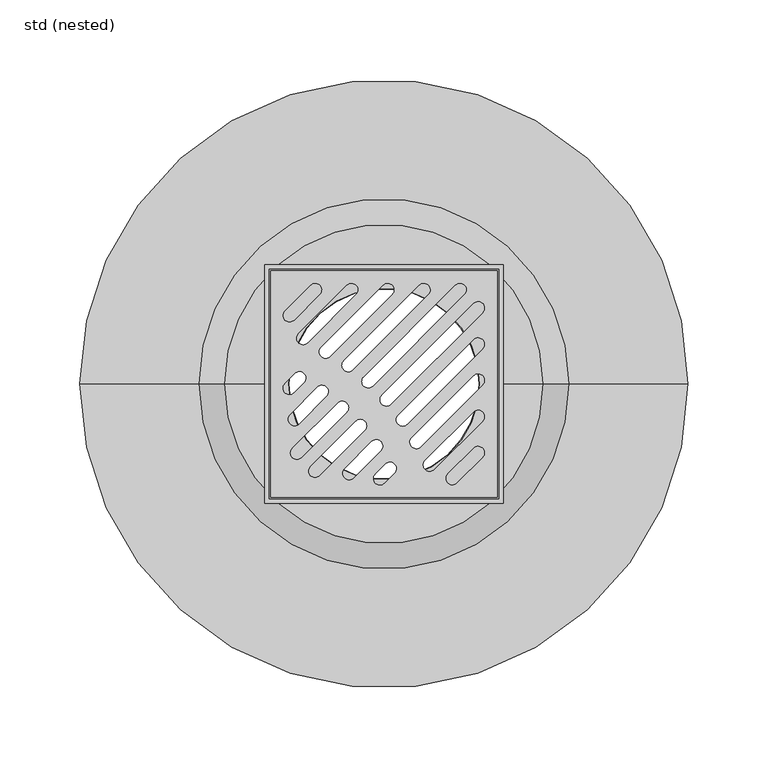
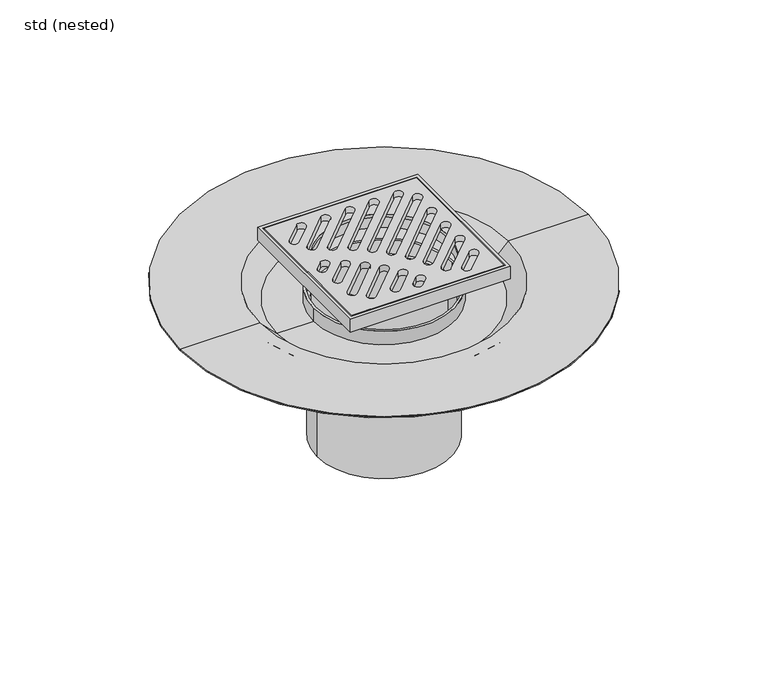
"""IFC4 building model written with IfcOpenShell, lengths in millimetres: sanitary terminal geometry, ZZZ_do_not_use_PF_GEN_UN_composite sealing top section Passavant_ACO : std (nested)."""

from ifc_helpers import new_model, si_unit, point, frame, frame_2d, origin, origin_2d, place, context, project, spatial, polyline, circle_curve, trimmed, segment, composite_curve, outline, extrude, source, transform, mapped, element, save
from ifc_brep_helpers import plane_surface, cylinder_surface, revolved_surface, advanced_brep


def std_nested_1c8f0180(model_context):
    return source(origin(), model_context, "Body", "SolidModel", [
        advanced_brep(
        [(71.6, 71.6, 35.5), (71.6, 71.6, 25.9), (71.6, -71.6, 25.9), (71.6, -71.6, 35.5), (74.6, 74.6, 22.9), (74.6, 74.6, 35.5), (74.6, -74.6, 35.5), (74.6, -74.6, 22.9), (-71.6, -71.6, 25.9), (-71.6, -71.6, 35.5), (-74.6, -74.6, 35.5), (-74.6, -74.6, 22.9), (-71.6, 71.6, 25.9), (-71.6, 71.6, 35.5), (-74.6, 74.6, 35.5), (-74.6, 74.6, 22.9), (59.6, 0.0, 25.9), (-59.6, 0.0, 25.9), (-62.6, 0.0, 22.9), (62.6, 0.0, 22.9), (-62.6, 0.0, 13.0), (62.6, 0.0, 13.0), (-59.6, 0.0, 13.0), (59.6, 0.0, 13.0), (59.6, 0.0, 22.9), (-59.6, 0.0, 22.9)],
        [
            (0, 1),
            (1, 2),
            (2, 3),
            (3, 0),
            (4, 5),
            (5, 6),
            (6, 7),
            (7, 4),
            (2, 8),
            (8, 9),
            (9, 3),
            (6, 10),
            (10, 11),
            (11, 7),
            (8, 12),
            (12, 13),
            (13, 9),
            (10, 14),
            (14, 15),
            (15, 11),
            (1, 12),
            (16, 17, circle_curve(frame((0.0, 0.0, 25.9), z_axis=(0.0, 0.0, -1.0), x_axis=(1.0, 0.0, 0.0)), 59.6)),
            (17, 16, circle_curve(frame((0.0, 0.0, 25.9), z_axis=(0.0, 0.0, -1.0), x_axis=(1.0, 0.0, 0.0)), 59.6)),
            (0, 13),
            (5, 14),
            (4, 15),
            (18, 19, circle_curve(frame((0.0, 0.0, 22.9), z_axis=(0.0, 0.0, 1.0), x_axis=(1.0, 0.0, 0.0)), 62.6)),
            (19, 18, circle_curve(frame((0.0, 0.0, 22.9), z_axis=(0.0, 0.0, 1.0), x_axis=(1.0, 0.0, 0.0)), 62.6)),
            (20, 21, circle_curve(frame((0.0, 0.0, 13.0), z_axis=(0.0, 0.0, -1.0), x_axis=(1.0, 0.0, 0.0)), 62.6)),
            (21, 20, circle_curve(frame((0.0, 0.0, 13.0), z_axis=(0.0, 0.0, -1.0), x_axis=(1.0, 0.0, 0.0)), 62.6)),
            (22, 23, circle_curve(frame((0.0, 0.0, 13.0), z_axis=(0.0, 0.0, 1.0), x_axis=(1.0, 0.0, 0.0)), 59.6)),
            (23, 22, circle_curve(frame((0.0, 0.0, 13.0), z_axis=(0.0, 0.0, 1.0), x_axis=(1.0, 0.0, 0.0)), 59.6)),
            (21, 19),
            (18, 20),
            (23, 24),
            (24, 25, circle_curve(frame((0.0, 0.0, 22.9), z_axis=(0.0, 0.0, 1.0), x_axis=(1.0, 0.0, 0.0)), 59.6)),
            (25, 22),
            (25, 24, circle_curve(frame((0.0, 0.0, 22.9), z_axis=(0.0, 0.0, 1.0), x_axis=(1.0, 0.0, 0.0)), 59.6)),
            (16, 24),
            (25, 17),
        ],
        [
            plane_surface(frame((71.6, 71.6, 25.9), z_axis=(-1.0, 0.0, 0.0), x_axis=(0.0, -1.0, 0.0))),
            plane_surface(frame((74.6, 74.6, 35.5), z_axis=(1.0, 0.0, 0.0), x_axis=(0.0, -1.0, 0.0))),
            plane_surface(frame((71.6, -71.6, 25.9), z_axis=(0.0, 1.0, 0.0), x_axis=(-1.0, 0.0, 0.0))),
            plane_surface(frame((74.6, -74.6, 35.5), z_axis=(0.0, -1.0, 0.0), x_axis=(-1.0, 0.0, 0.0))),
            plane_surface(frame((-71.6, -71.6, 25.9), z_axis=(1.0, 0.0, 0.0), x_axis=(0.0, 1.0, 0.0))),
            plane_surface(frame((-74.6, -74.6, 35.5), z_axis=(-1.0, 0.0, 0.0), x_axis=(0.0, 1.0, 0.0))),
            plane_surface(frame((0.0, 0.0, 25.9), z_axis=(0.0, 0.0, 1.0), x_axis=(1.0, 0.0, 0.0))),
            plane_surface(frame((-71.6, 71.6, 25.9), z_axis=(0.0, -1.0, 0.0), x_axis=(1.0, 0.0, 0.0))),
            plane_surface(frame((-71.6, 71.6, 35.5), z_axis=(0.0, 0.0, 1.0), x_axis=(1.0, 0.0, 0.0))),
            plane_surface(frame((-74.6, 74.6, 35.5), z_axis=(0.0, 1.0, 0.0), x_axis=(1.0, 0.0, 0.0))),
            plane_surface(frame((-74.6, 74.6, 22.9), z_axis=(0.0, 0.0, -1.0), x_axis=(1.0, 0.0, 0.0))),
            plane_surface(frame((62.6, 0.0, 13.0), z_axis=(0.0, 0.0, -1.0), x_axis=(0.0, -1.0, 0.0))),
            cylinder_surface(frame((0.0, 0.0, 13.0), z_axis=(0.0, 0.0, 1.0), x_axis=(1.0, 0.0, 0.0)), 62.6),
            revolved_surface(polyline([(59.6, 0.0, 13.0), (59.6, 0.0, 22.9)]), (0.0, 0.0, 35.5), (0.0, 0.0, -1.0)),
            revolved_surface(polyline([(59.6, 0.0, 25.9), (59.6, 0.0, 22.9)]), (0.0, 0.0, 22.9), (0.0, 0.0, 1.0)),
        ],
        [
            (0, [[1, 2, 3, 4]]),
            (1, [[5, 6, 7, 8]]),
            (2, [[-3, 9, 10, 11]]),
            (3, [[-7, 12, 13, 14]]),
            (4, [[-10, 15, 16, 17]]),
            (5, [[-13, 18, 19, 20]]),
            (6, [[-2, 21, -15, -9], [22, 23]]),
            (7, [[-1, 24, -16, -21]]),
            (8, [[-6, 25, -18, -12], [-4, -11, -17, -24]]),
            (9, [[-5, 26, -19, -25]]),
            (10, [[-8, -14, -20, -26], [27, 28]]),
            (11, [[29, 30], [31, 32]]),
            (12, [[-30, 33, -27, 34]]),
            (12, [[-29, -34, -28, -33]]),
            (13, [[-32, 35, 36, 37]]),
            (13, [[-31, -37, 38, -35]]),
            (14, [[39, -38, 40, -22]]),
            (14, [[-39, -23, -40, -36]]),
        ],
    ),
        extrude(outline(polyline([(70.75, 70.75), (70.75, -70.75), (-70.75, -70.75), (-70.75, 70.75), (70.75, 70.75)]), holes=[composite_curve([segment(polyline([(44.6581024, 61.6286651), (-12.6246339, 4.3461669)]), True, "CONTINUOUS"), segment(trimmed(circle_curve(frame_2d((-9.7961473, 1.5176802)), 4.0000841), [point((-12.6246339, 4.3461669))], [point((-6.9675416, -1.3106874))], True, "CARTESIAN"), True, "CONTINUOUS"), segment(polyline([(-6.9675416, -1.3106874), (50.3149566, 55.9718109)]), True, "CONTINUOUS"), segment(trimmed(circle_curve(frame_2d((47.4864105, 58.800119)), 4.0), [point((50.3149566, 55.9718109))], [point((44.6581024, 61.6286651))], True, "CARTESIAN"), True, "CONTINUOUS")], self_intersect=False), composite_curve([segment(polyline([(55.9714539, 50.3145996), (-1.3109254, -6.9676606)]), True, "CONTINUOUS"), segment(trimmed(circle_curve(frame_2d((1.5175612, -9.7960283)), 4.0), [point((-1.3109254, -6.9676606))], [point((4.3459884, -12.6244554))], True, "CARTESIAN"), True, "CONTINUOUS"), segment(polyline([(4.3459884, -12.6244554), (61.6283081, 44.6577454)]), True, "CONTINUOUS"), segment(trimmed(circle_curve(frame_2d((58.799881, 47.4861725)), 4.0), [point((61.6283081, 44.6577454))], [point((55.9714539, 50.3145996))], True, "CARTESIAN"), True, "CONTINUOUS")], self_intersect=False), composite_curve([segment(polyline([(55.9715729, 5.0601226), (17.3213978, -33.590112)]), True, "CONTINUOUS"), segment(trimmed(circle_curve(frame_2d((20.1498249, -36.4185391)), 4.0), [point((17.3213978, -33.590112))], [point((22.978252, -39.2469662))], True, "CARTESIAN"), True, "CONTINUOUS"), segment(polyline([(22.978252, -39.2469662), (61.6284271, -0.5967316)]), True, "CONTINUOUS"), segment(trimmed(circle_curve(frame_2d((58.8, 2.2316955)), 4.0), [point((61.6284271, -0.5967316))], [point((55.9715729, 5.0601226))], True, "CARTESIAN"), True, "CONTINUOUS")], self_intersect=False), composite_curve([segment(polyline([(14.4929707, -25.1048306), (61.6284271, 22.0302094)]), True, "CONTINUOUS"), segment(trimmed(circle_curve(frame_2d((58.8, 24.8586365)), 4.0), [point((61.6284271, 22.0302094))], [point((55.9715729, 27.6870636))], True, "CARTESIAN"), True, "CONTINUOUS"), segment(polyline([(55.9715729, 27.6870636), (8.8361164, -19.4479763)]), True, "CONTINUOUS"), segment(trimmed(circle_curve(frame_2d((11.6645435, -22.2764035)), 4.0), [point((8.8361164, -19.4479763))], [point((14.4929707, -25.1048306))], True, "CARTESIAN"), True, "CONTINUOUS")], self_intersect=False), composite_curve([segment(polyline([(-33.59035, 17.3215763), (5.0598846, 55.9718109)]), True, "CONTINUOUS"), segment(trimmed(circle_curve(frame_2d((2.2314575, 58.800238)), 4.0), [point((5.0598846, 55.9718109))], [point((-0.5969696, 61.6286651))], True, "CARTESIAN"), True, "CONTINUOUS"), segment(polyline([(-0.5969696, 61.6286651), (-39.2472042, 22.9784305)]), True, "CONTINUOUS"), segment(trimmed(circle_curve(frame_2d((-36.4187771, 20.1500034)), 4.0), [point((-39.2472042, 22.9784305))], [point((-33.59035, 17.3215763))], True, "CARTESIAN"), True, "CONTINUOUS")], self_intersect=False), composite_curve([segment(polyline([(22.0304474, 61.6286651), (-25.1050686, 14.4931492)]), True, "CONTINUOUS"), segment(trimmed(circle_curve(frame_2d((-22.2766415, 11.664722)), 4.0), [point((-25.1050686, 14.4931492))], [point((-19.4482143, 8.8362949))], True, "CARTESIAN"), True, "CONTINUOUS"), segment(polyline([(-19.4482143, 8.8362949), (27.6873016, 55.9718109)]), True, "CONTINUOUS"), segment(trimmed(circle_curve(frame_2d((24.8588745, 58.800238)), 4.0), [point((27.6873016, 55.9718109))], [point((22.0304474, 61.6286651))], True, "CARTESIAN"), True, "CONTINUOUS")], self_intersect=False), composite_curve([segment(polyline([(-56.2743355, -5.3624093), (-50.065938, 0.8459883)]), True, "CONTINUOUS"), segment(trimmed(circle_curve(frame_2d((-52.8943651, 3.6744154)), 4.0), [point((-50.065938, 0.8459883))], [point((-55.7227922, 6.5028425))], True, "CARTESIAN"), True, "CONTINUOUS"), segment(polyline([(-55.7227922, 6.5028425), (-61.9311897, 0.294445)]), True, "CONTINUOUS"), segment(trimmed(circle_curve(frame_2d((-59.1027626, -2.5339821)), 4.0), [point((-61.9311897, 0.294445))], [point((-56.2743355, -5.3624093))], True, "CARTESIAN"), True, "CONTINUOUS")], self_intersect=False), composite_curve([segment(polyline([(-56.217767, 39.9489933), (-40.1949494, 55.9718109)]), True, "CONTINUOUS"), segment(trimmed(circle_curve(frame_2d((-43.0233765, 58.800238)), 4.0), [point((-40.1949494, 55.9718109))], [point((-45.8518036, 61.6286651))], True, "CARTESIAN"), True, "CONTINUOUS"), segment(polyline([(-45.8518036, 61.6286651), (-61.8746212, 45.6058475)]), True, "CONTINUOUS"), segment(trimmed(circle_curve(frame_2d((-59.0461941, 42.7774204)), 4.0), [point((-61.8746212, 45.6058475))], [point((-56.217767, 39.9489933))], True, "CARTESIAN"), True, "CONTINUOUS")], self_intersect=False), composite_curve([segment(polyline([(-47.7890541, 25.7502891), (-17.5675324, 55.9718109)]), True, "CONTINUOUS"), segment(trimmed(circle_curve(frame_2d((-20.3959595, 58.800238)), 4.0), [point((-17.5675324, 55.9718109))], [point((-23.2243866, 61.6286651))], True, "CARTESIAN"), True, "CONTINUOUS"), segment(polyline([(-23.2243866, 61.6286651), (-53.4459084, 31.4071434)]), True, "CONTINUOUS"), segment(trimmed(circle_curve(frame_2d((-50.6174812, 28.5787162)), 4.0), [point((-53.4459084, 31.4071434))], [point((-47.7890541, 25.7502891))], True, "CARTESIAN"), True, "CONTINUOUS")], self_intersect=False), composite_curve([segment(polyline([(0.294207, -61.9311897), (6.5026045, -55.7227922)]), True, "CONTINUOUS"), segment(trimmed(circle_curve(frame_2d((3.6741774, -52.8943651)), 4.0), [point((6.5026045, -55.7227922))], [point((0.8457503, -50.065938))], True, "CARTESIAN"), True, "CONTINUOUS"), segment(polyline([(0.8457503, -50.065938), (-5.3626473, -56.2743355)]), True, "CONTINUOUS"), segment(trimmed(circle_curve(frame_2d((-2.5342201, -59.1027626)), 4.0), [point((-5.3626473, -56.2743355))], [point((0.294207, -61.9311897))], True, "CARTESIAN"), True, "CONTINUOUS")], self_intersect=False), composite_curve([segment(polyline([(55.9715729, -40.1947114), (39.9488148, -56.217529)]), True, "CONTINUOUS"), segment(trimmed(circle_curve(frame_2d((42.7772419, -59.0459561)), 4.0), [point((39.9488148, -56.217529))], [point((45.605669, -61.8743832))], True, "CARTESIAN"), True, "CONTINUOUS"), segment(polyline([(45.605669, -61.8743832), (61.6284271, -45.8515656)]), True, "CONTINUOUS"), segment(trimmed(circle_curve(frame_2d((58.8, -43.0231385)), 4.0), [point((61.6284271, -45.8515656))], [point((55.9715729, -40.1947114))], True, "CARTESIAN"), True, "CONTINUOUS")], self_intersect=False), composite_curve([segment(polyline([(55.9715729, -17.5672944), (25.7501106, -47.7888161)]), True, "CONTINUOUS"), segment(trimmed(circle_curve(frame_2d((28.5785377, -50.6172432)), 4.0), [point((25.7501106, -47.7888161))], [point((31.4069649, -53.4456704))], True, "CARTESIAN"), True, "CONTINUOUS"), segment(polyline([(31.4069649, -53.4456704), (61.6284271, -23.2241486)]), True, "CONTINUOUS"), segment(trimmed(circle_curve(frame_2d((58.8, -20.3957215)), 4.0), [point((61.6284271, -23.2241486))], [point((55.9715729, -17.5672944))], True, "CARTESIAN"), True, "CONTINUOUS")], self_intersect=False), composite_curve([segment(polyline([(-7.6536732, -35.9379445), (-24.5961704, -53.0355484)]), True, "CONTINUOUS"), segment(trimmed(circle_curve(frame_2d((-21.7677433, -55.8639756)), 4.0), [point((-24.5961704, -53.0355484))], [point((-18.9393162, -58.6924027))], True, "CARTESIAN"), True, "CONTINUOUS"), segment(polyline([(-18.9393162, -58.6924027), (-1.996819, -41.5947987)]), True, "CONTINUOUS"), segment(trimmed(circle_curve(frame_2d((-4.8252461, -38.7663716)), 4.0), [point((-1.996819, -41.5947987))], [point((-7.6536732, -35.9379445))], True, "CARTESIAN"), True, "CONTINUOUS")], self_intersect=False), composite_curve([segment(polyline([(-53.0357864, -24.9156652), (-35.9379445, -7.6534352)]), True, "CONTINUOUS"), segment(trimmed(circle_curve(frame_2d((-38.7663716, -4.8250081)), 4.0), [point((-35.9379445, -7.6534352))], [point((-41.5947987, -1.996581))], True, "CARTESIAN"), True, "CONTINUOUS"), segment(polyline([(-41.5947987, -1.996581), (-58.6926407, -19.2588109)]), True, "CONTINUOUS"), segment(trimmed(circle_curve(frame_2d((-55.8642136, -22.0872381)), 4.0), [point((-58.6926407, -19.2588109))], [point((-53.0357864, -24.9156652))], True, "CARTESIAN"), True, "CONTINUOUS")], self_intersect=False), composite_curve([segment(polyline([(-17.6776695, -23.3345238), (-45.9619408, -51.618795)]), True, "CONTINUOUS"), segment(trimmed(circle_curve(frame_2d((-43.1335137, -54.4472222)), 4.0), [point((-45.9619408, -51.618795))], [point((-40.3050865, -57.2756493))], True, "CARTESIAN"), True, "CONTINUOUS"), segment(polyline([(-40.3050865, -57.2756493), (-12.0208153, -28.991378)]), True, "CONTINUOUS"), segment(trimmed(circle_curve(frame_2d((-14.8492424, -26.1629509)), 4.0), [point((-12.0208153, -28.991378))], [point((-17.6776695, -23.3345238))], True, "CARTESIAN"), True, "CONTINUOUS")], self_intersect=False), composite_curve([segment(polyline([(-28.991378, -12.0208153), (-57.2756493, -40.3050865)]), True, "CONTINUOUS"), segment(trimmed(circle_curve(frame_2d((-54.4472222, -43.1335137)), 4.0), [point((-57.2756493, -40.3050865))], [point((-51.618795, -45.9619408))], True, "CARTESIAN"), True, "CONTINUOUS"), segment(polyline([(-51.618795, -45.9619408), (-23.3345238, -17.6776695)]), True, "CONTINUOUS"), segment(trimmed(circle_curve(frame_2d((-26.1629509, -14.8492424)), 4.0), [point((-23.3345238, -17.6776695))], [point((-28.991378, -12.0208153))], True, "CARTESIAN"), True, "CONTINUOUS")], self_intersect=False)]), frame((0.0, 0.0, 29.9), z_axis=(0.0, 0.0, 1.0), x_axis=(1.0, 0.0, 0.0)), (0.0, 0.0, 1.0), 5.6),
        extrude(outline(composite_curve([segment(trimmed(circle_curve(origin_2d(), 65.5), [point((-65.5, 0.0))], [point((65.5, 0.0))], False, "CARTESIAN"), True, "CONTINUOUS"), segment(trimmed(circle_curve(origin_2d(), 65.5), [point((65.5, 0.0))], [point((-65.5, 0.0))], False, "CARTESIAN"), True, "CONTINUOUS")], self_intersect=False), holes=[composite_curve([segment(trimmed(circle_curve(origin_2d(), 63.0), [point((-63.0, 0.0))], [point((63.0, 0.0))], True, "CARTESIAN"), True, "CONTINUOUS"), segment(trimmed(circle_curve(origin_2d(), 63.0), [point((63.0, 0.0))], [point((-63.0, 0.0))], True, "CARTESIAN"), True, "CONTINUOUS")], self_intersect=False)]), frame((0.0, 0.0, -15.0), z_axis=(0.0, 0.0, 1.0), x_axis=(1.0, 0.0, 0.0)), (0.0, 0.0, 1.0), 13.0),
        advanced_brep(
        [(190.0, 0.0, 0.0), (-190.0, 0.0, 0.0), (-190.0, 0.0, 1.0), (190.0, 0.0, 1.0), (126.0170097, 0.0, 0.0), (-126.0170097, 0.0, 0.0), (-115.7, 0.0, 1.0), (115.7, 0.0, 1.0), (62.5, 0.0, -149.0), (-62.5, 0.0, -149.0), (-62.5, 0.0, -24.0), (62.5, 0.0, -24.0), (59.5, 0.0, -149.0), (-59.5, 0.0, -149.0), (59.5, 0.0, -15.0), (-59.5, 0.0, -15.0), (-99.6886602, 0.0, -15.0), (99.6886602, 0.0, -15.0), (102.0, 0.0, -24.0), (-102.0, 0.0, -24.0)],
        [
            (0, 1, circle_curve(frame((0.0, 0.0, 0.0), z_axis=(0.0, 0.0, 1.0), x_axis=(-1.0, 0.0, 0.0)), 190.0)),
            (1, 2),
            (2, 3, circle_curve(frame((0.0, 0.0, 1.0), z_axis=(0.0, 0.0, -1.0), x_axis=(-1.0, 0.0, 0.0)), 190.0)),
            (3, 0),
            (1, 0, circle_curve(frame((0.0, 0.0, 0.0), z_axis=(0.0, 0.0, 1.0), x_axis=(-1.0, 0.0, 0.0)), 190.0)),
            (3, 2, circle_curve(frame((0.0, 0.0, 1.0), z_axis=(0.0, 0.0, -1.0), x_axis=(-1.0, 0.0, 0.0)), 190.0)),
            (4, 5, circle_curve(frame((0.0, 0.0, 0.0), z_axis=(0.0, 0.0, 1.0), x_axis=(-1.0, 0.0, 0.0)), 126.0170097)),
            (5, 1),
            (0, 4),
            (5, 4, circle_curve(frame((0.0, 0.0, 0.0), z_axis=(0.0, 0.0, 1.0), x_axis=(-1.0, 0.0, 0.0)), 126.0170097)),
            (2, 6),
            (6, 7, circle_curve(frame((0.0, 0.0, 1.0), z_axis=(0.0, 0.0, -1.0), x_axis=(-1.0, 0.0, 0.0)), 115.7)),
            (7, 3),
            (7, 6, circle_curve(frame((0.0, 0.0, 1.0), z_axis=(0.0, 0.0, -1.0), x_axis=(-1.0, 0.0, 0.0)), 115.7)),
            (8, 9, circle_curve(frame((0.0, 0.0, -149.0), z_axis=(0.0, 0.0, 1.0), x_axis=(-1.0, 0.0, 0.0)), 62.5)),
            (9, 10),
            (10, 11, circle_curve(frame((0.0, 0.0, -24.0), z_axis=(0.0, 0.0, -1.0), x_axis=(-1.0, 0.0, 0.0)), 62.5)),
            (11, 8),
            (9, 8, circle_curve(frame((0.0, 0.0, -149.0), z_axis=(0.0, 0.0, 1.0), x_axis=(-1.0, 0.0, 0.0)), 62.5)),
            (11, 10, circle_curve(frame((0.0, 0.0, -24.0), z_axis=(0.0, 0.0, -1.0), x_axis=(-1.0, 0.0, 0.0)), 62.5)),
            (12, 13, circle_curve(frame((0.0, 0.0, -149.0), z_axis=(0.0, 0.0, 1.0), x_axis=(-1.0, 0.0, 0.0)), 59.5)),
            (13, 9),
            (8, 12),
            (13, 12, circle_curve(frame((0.0, 0.0, -149.0), z_axis=(0.0, 0.0, 1.0), x_axis=(-1.0, 0.0, 0.0)), 59.5)),
            (14, 15, circle_curve(frame((0.0, 0.0, -15.0), z_axis=(0.0, 0.0, 1.0), x_axis=(-1.0, 0.0, 0.0)), 59.5)),
            (15, 13),
            (12, 14),
            (15, 14, circle_curve(frame((0.0, 0.0, -15.0), z_axis=(0.0, 0.0, 1.0), x_axis=(-1.0, 0.0, 0.0)), 59.5)),
            (6, 16),
            (16, 17, circle_curve(frame((0.0, 0.0, -15.0), z_axis=(0.0, 0.0, -1.0), x_axis=(-1.0, 0.0, 0.0)), 99.6886602)),
            (17, 7),
            (17, 16, circle_curve(frame((0.0, 0.0, -15.0), z_axis=(0.0, 0.0, -1.0), x_axis=(-1.0, 0.0, 0.0)), 99.6886602)),
            (18, 19, circle_curve(frame((0.0, 0.0, -24.0), z_axis=(0.0, 0.0, 1.0), x_axis=(-1.0, 0.0, 0.0)), 102.0)),
            (19, 5),
            (4, 18),
            (19, 18, circle_curve(frame((0.0, 0.0, -24.0), z_axis=(0.0, 0.0, 1.0), x_axis=(-1.0, 0.0, 0.0)), 102.0)),
            (10, 19),
            (18, 11),
            (16, 15),
            (14, 17),
        ],
        [
            cylinder_surface(frame((0.0, 0.0, 33.6281295), z_axis=(0.0, 0.0, -1.0), x_axis=(-1.0, 0.0, 0.0)), 190.0),
            plane_surface(frame((0.0, 0.0, 0.0), z_axis=(0.0, 0.0, -1.0), x_axis=(-1.0, 0.0, 0.0))),
            plane_surface(frame((0.0, 0.0, 1.0), z_axis=(0.0, 0.0, 1.0), x_axis=(-1.0, 0.0, 0.0))),
            cylinder_surface(frame((0.0, 0.0, 33.6281295), z_axis=(0.0, 0.0, -1.0), x_axis=(-1.0, 0.0, 0.0)), 62.5),
            plane_surface(frame((0.0, 0.0, -149.0), z_axis=(0.0, 0.0, -1.0), x_axis=(-1.0, 0.0, 0.0))),
            revolved_surface(polyline([(-59.5, 0.0, -149.0), (-59.5, 0.0, -15.0)]), (0.0, 0.0, 33.6281295), (0.0, 0.0, -1.0)),
            revolved_surface(polyline([(-99.6886602, 0.0, -15.0), (-115.7, 0.0, 1.0)]), (0.0, 0.0, 33.6281295), (0.0, 0.0, -1.0)),
            revolved_surface(polyline([(-126.0170097, 0.0, 0.0), (-102.0, 0.0, -24.0)]), (0.0, 0.0, 33.6281295), (0.0, 0.0, -1.0)),
            plane_surface(frame((0.0, 0.0, -24.0), z_axis=(0.0, 0.0, -1.0), x_axis=(-1.0, 0.0, 0.0))),
            plane_surface(frame((0.0, 0.0, -15.0), z_axis=(0.0, 0.0, 1.0), x_axis=(-1.0, 0.0, 0.0))),
        ],
        [
            (0, [[1, 2, 3, 4]]),
            (0, [[5, -4, 6, -2]]),
            (1, [[7, 8, -1, 9]]),
            (1, [[10, -9, -5, -8]]),
            (2, [[-3, 11, 12, 13]]),
            (2, [[-6, -13, 14, -11]]),
            (3, [[15, 16, 17, 18]]),
            (3, [[19, -18, 20, -16]]),
            (4, [[21, 22, -15, 23]]),
            (4, [[24, -23, -19, -22]]),
            (5, [[25, 26, -21, 27]]),
            (5, [[28, -27, -24, -26]]),
            (6, [[-12, 29, 30, 31]]),
            (6, [[-14, -31, 32, -29]]),
            (7, [[33, 34, -7, 35]]),
            (7, [[36, -35, -10, -34]]),
            (8, [[-17, 37, -33, 38]]),
            (8, [[-20, -38, -36, -37]]),
            (9, [[-30, 39, -25, 40]]),
            (9, [[-32, -40, -28, -39]]),
        ],
    ),
    ])


if __name__ == "__main__":
    model = new_model("IFC4")
    model_context = context("Model", 3, world=origin())
    ifc_project = project(units=[si_unit("LENGTHUNIT", "METRE", prefix="MILLI")], contexts=[model_context])
    site = spatial("IfcSite", under=ifc_project)
    building = spatial("IfcBuilding", under=site)
    placement = place(None, origin())
    std_nested_shape = std_nested_1c8f0180(model_context)
    element("IfcSanitaryTerminal", 1, ObjectType="ZZZ_do_not_use_PF_GEN_UN_composite sealing top section Passavant_ACO : std (nested)", at=placement, inside=building, context=model_context, shape_type="MappedRepresentation", body=[
        mapped(std_nested_shape, transform((0.0, 0.0, 0.0), x_axis=(1.0, 0.0, 0.0), y_axis=(0.0, 1.0, 0.0), z_axis=(0.0, 0.0, 1.0))),
    ])
    save(model, "model.ifc")
